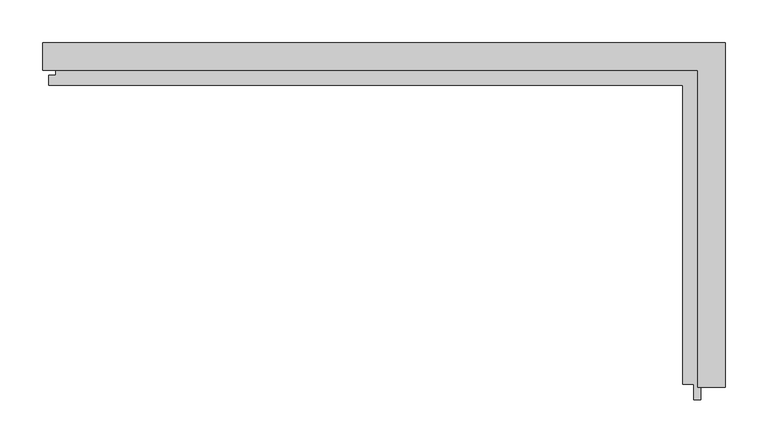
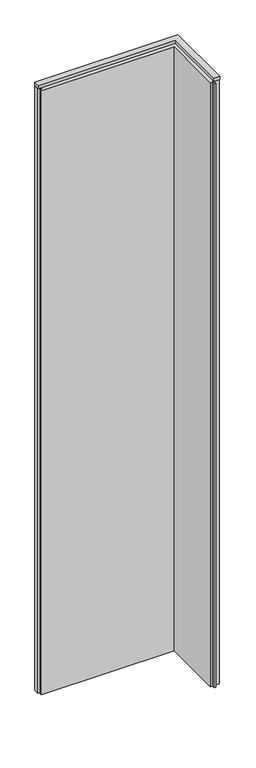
"""IFC4 building model written with IfcOpenShell, lengths in millimetres: plate geometry, Trimo_Qbiss Screen_L Corner Panel-VERTICAL : HR - FB-F."""

from ifc_helpers import new_model, si_unit, frame, origin, place, context, project, spatial, polyline, outline, extrude, source, transform, mapped, element, save


def plate_ecf62f9b(model_context):
    return source(origin(), model_context, "Body", "SweptSolid", [
        extrude(outline(polyline([(-337.0, 93.9), (-337.0, 126.0), (463.0, 126.0), (463.0, -278.0), (430.9, -278.0), (430.9, 93.9), (-337.0, 93.9)])), frame((0.0, 0.0, 3590.5), z_axis=(0.0, 0.0, 1.0), x_axis=(1.0, 0.0, 0.0)), (0.0, 0.0, 1.0), 19.0),
        extrude(outline(polyline([(463.0, -274.0), (434.0, -274.0), (434.0, -292.5), (426.0, -292.5), (426.0, -274.0), (413.0, -274.0), (413.0, 76.0), (-330.0, 76.0), (-330.0, 88.0), (-321.5, 88.0), (-321.5, 98.0), (-337.0, 98.0), (-337.0, 126.0), (463.0, 126.0), (463.0, -274.0)])), frame((0.0, 0.0, 12.5), z_axis=(0.0, 0.0, 1.0), x_axis=(1.0, 0.0, 0.0)), (0.0, 0.0, 1.0), 3575.0),
    ])


if __name__ == "__main__":
    model = new_model("IFC4")
    model_context = context("Model", 3, world=origin())
    ifc_project = project(units=[si_unit("LENGTHUNIT", "METRE", prefix="MILLI")], contexts=[model_context])
    site = spatial("IfcSite", under=ifc_project)
    building = spatial("IfcBuilding", under=site)
    placement = place(None, origin())
    plate_shape = plate_ecf62f9b(model_context)
    element("IfcPlate", 1, ObjectType="Trimo_Qbiss Screen_L Corner Panel-VERTICAL : HR - FB-F", at=placement, inside=building, context=model_context, shape_type="MappedRepresentation", body=[
        mapped(plate_shape, transform((0.0, 0.0, 0.0), x_axis=(1.0, 0.0, 0.0), y_axis=(0.0, 1.0, 0.0), z_axis=(0.0, 0.0, 1.0))),
    ])
    save(model, "model.ifc")
